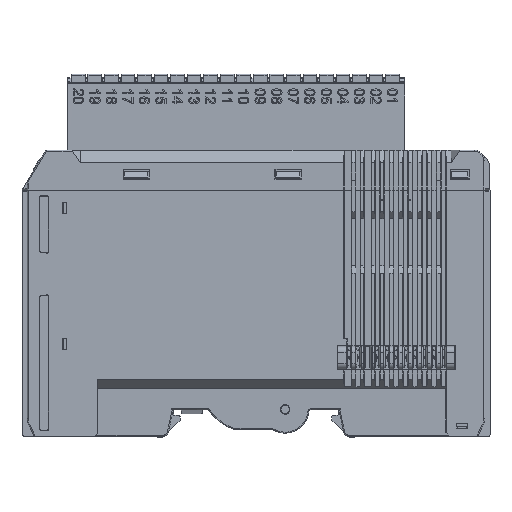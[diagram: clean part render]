
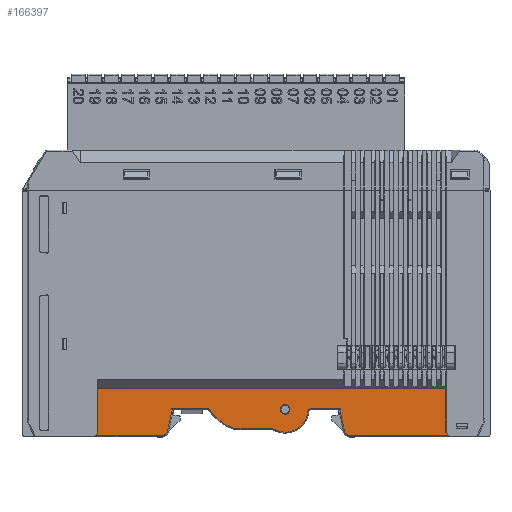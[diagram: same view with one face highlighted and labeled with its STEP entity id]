
A CAD part, left-side view. The second image highlights one B-rep face of the part: STEP entity #166397.
In plain terms, the highlighted planar face has unit normal (-1, 0, 0).
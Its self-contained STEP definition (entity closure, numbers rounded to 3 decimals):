
#38267=DIRECTION('',(0.,-1.,0.));
#38268=VECTOR('',#38267,21.195);
#38269=CARTESIAN_POINT('',(-5.45,-19.555,0.2));
#38270=LINE('',#38269,#38268);
#38276=DIRECTION('',(0.,-0.707,0.707));
#38277=VECTOR('',#38276,0.58);
#38278=CARTESIAN_POINT('',(-5.45,33.9,0.2));
#38279=LINE('',#38278,#38277);
#38280=DIRECTION('',(0.,-1.,0.));
#38281=VECTOR('',#38280,73.619);
#38282=CARTESIAN_POINT('',(-5.45,33.49,10.108));
#38283=LINE('',#38282,#38281);
#38284=DIRECTION('',(0.,0.,-1.));
#38285=VECTOR('',#38284,9.287);
#38286=CARTESIAN_POINT('',(-5.45,-40.129,10.108));
#38287=LINE('',#38286,#38285);
#38288=DIRECTION('',(0.,-0.707,-0.707));
#38289=VECTOR('',#38288,0.878);
#38290=CARTESIAN_POINT('',(-5.45,-40.129,0.821));
#38291=LINE('',#38290,#38289);
#38292=CARTESIAN_POINT('',(-5.45,-19.555,1.));
#38293=DIRECTION('',(1.,0.,0.));
#38294=DIRECTION('',(0.,0.,-1.));
#38295=AXIS2_PLACEMENT_3D('',#38292,#38293,#38294);
#38297=DIRECTION('',(0.,0.214,0.977));
#38298=VECTOR('',#38297,4.087);
#38299=CARTESIAN_POINT('',(-5.45,-18.773,0.829));
#38300=LINE('',#38299,#38298);
#38301=CARTESIAN_POINT('',(-5.45,-11.652,5.1));
#38302=DIRECTION('',(-1.,0.,0.));
#38303=DIRECTION('',(0.,0.,1.));
#38304=AXIS2_PLACEMENT_3D('',#38301,#38302,#38303);
#38306=CARTESIAN_POINT('',(-5.45,-6.18,5.65));
#38307=DIRECTION('',(1.,0.,0.));
#38308=DIRECTION('',(0.,-0.995,-0.1));
#38309=AXIS2_PLACEMENT_3D('',#38306,#38307,#38308);
#38311=CARTESIAN_POINT('',(-5.45,-3.316,1.25));
#38312=DIRECTION('',(-1.,0.,0.));
#38313=DIRECTION('',(0.,-0.546,0.838));
#38314=AXIS2_PLACEMENT_3D('',#38311,#38312,#38313);
#38316=CARTESIAN_POINT('',(-5.45,4.682,1.75));
#38317=DIRECTION('',(1.,0.,0.));
#38318=DIRECTION('',(0.,0.,-1.));
#38319=AXIS2_PLACEMENT_3D('',#38316,#38317,#38318);
#38321=CARTESIAN_POINT('',(-5.45,1.95,10.587));
#38322=DIRECTION('',(1.,0.,0.));
#38323=DIRECTION('',(0.,0.295,-0.955));
#38324=AXIS2_PLACEMENT_3D('',#38321,#38322,#38323);
#38326=CARTESIAN_POINT('',(-5.45,10.174,5.35));
#38327=DIRECTION('',(-1.,0.,0.));
#38328=DIRECTION('',(0.,-0.843,0.537));
#38329=AXIS2_PLACEMENT_3D('',#38326,#38327,#38328);
#38331=DIRECTION('',(0.,0.214,-0.977));
#38332=VECTOR('',#38331,4.087);
#38333=CARTESIAN_POINT('',(-5.45,17.9,4.822));
#38334=LINE('',#38333,#38332);
#38335=CARTESIAN_POINT('',(-5.45,19.555,1.));
#38336=DIRECTION('',(1.,0.,0.));
#38337=DIRECTION('',(0.,-0.977,-0.214));
#38338=AXIS2_PLACEMENT_3D('',#38335,#38336,#38337);
#38340=CARTESIAN_POINT('',(-5.45,-6.18,5.65));
#38341=DIRECTION('',(-1.,0.,0.));
#38342=DIRECTION('',(0.,0.,-1.));
#38343=AXIS2_PLACEMENT_3D('',#38340,#38341,#38342);
#38345=CARTESIAN_POINT('',(-5.45,-6.18,5.65));
#38346=DIRECTION('',(-1.,0.,0.));
#38347=DIRECTION('',(0.,0.,1.));
#38348=AXIS2_PLACEMENT_3D('',#38345,#38346,#38347);
#38350=DIRECTION('',(0.,-1.,0.));
#38351=VECTOR('',#38350,14.345);
#38352=CARTESIAN_POINT('',(-5.45,33.9,0.2));
#38353=LINE('',#38352,#38351);
#38404=DIRECTION('',(0.,0.,1.));
#38405=VECTOR('',#38404,0.978);
#38406=CARTESIAN_POINT('',(-5.45,17.9,4.822));
#38407=LINE('',#38406,#38405);
#38416=DIRECTION('',(0.,-1.,0.));
#38417=VECTOR('',#38416,7.726);
#38418=CARTESIAN_POINT('',(-5.45,17.9,5.8));
#38419=LINE('',#38418,#38417);
#41964=DIRECTION('',(0.,0.,-1.));
#41965=VECTOR('',#41964,9.498);
#41966=CARTESIAN_POINT('',(-5.45,33.49,10.108));
#41967=LINE('',#41966,#41965);
#42803=DIRECTION('',(0.,0.,-1.));
#42804=VECTOR('',#42803,0.978);
#42805=CARTESIAN_POINT('',(-5.45,-17.9,5.8));
#42806=LINE('',#42805,#42804);
#42847=DIRECTION('',(0.,-1.,0.));
#42848=VECTOR('',#42847,6.248);
#42849=CARTESIAN_POINT('',(-5.45,-11.652,5.8));
#42850=LINE('',#42849,#42848);
#42890=DIRECTION('',(0.,-1.,0.));
#42891=VECTOR('',#42890,7.998);
#42892=CARTESIAN_POINT('',(-5.45,4.682,1.7));
#42893=LINE('',#42892,#42891);
#88728=CARTESIAN_POINT('',(-5.45,-40.129,10.108));
#88729=VERTEX_POINT('',#88728);
#88730=CARTESIAN_POINT('',(-5.45,-40.129,0.821));
#88731=VERTEX_POINT('',#88730);
#89400=CARTESIAN_POINT('',(-5.45,19.555,0.2));
#89401=VERTEX_POINT('',#89400);
#89402=CARTESIAN_POINT('',(-5.45,-6.18,4.65));
#89403=CARTESIAN_POINT('',(-5.45,-6.18,6.65));
#89404=VERTEX_POINT('',#89402);
#89405=VERTEX_POINT('',#89403);
#89406=CARTESIAN_POINT('',(-5.45,33.9,0.2));
#89407=VERTEX_POINT('',#89406);
#89408=CARTESIAN_POINT('',(-5.45,33.49,0.61));
#89409=VERTEX_POINT('',#89408);
#89410=CARTESIAN_POINT('',(-5.45,33.49,10.108));
#89411=VERTEX_POINT('',#89410);
#89412=CARTESIAN_POINT('',(-5.45,-40.75,0.2));
#89413=VERTEX_POINT('',#89412);
#89414=CARTESIAN_POINT('',(-5.45,-19.555,0.2));
#89415=VERTEX_POINT('',#89414);
#89416=CARTESIAN_POINT('',(-5.45,-18.773,0.829));
#89417=VERTEX_POINT('',#89416);
#89418=CARTESIAN_POINT('',(-5.45,-17.9,4.822));
#89419=VERTEX_POINT('',#89418);
#89420=CARTESIAN_POINT('',(-5.45,-17.9,5.8));
#89421=VERTEX_POINT('',#89420);
#89422=CARTESIAN_POINT('',(-5.45,-11.652,5.8));
#89423=VERTEX_POINT('',#89422);
#89424=CARTESIAN_POINT('',(-5.45,-10.956,5.17));
#89425=VERTEX_POINT('',#89424);
#89426=CARTESIAN_POINT('',(-5.45,-3.561,1.627));
#89427=VERTEX_POINT('',#89426);
#89428=CARTESIAN_POINT('',(-5.45,-3.316,1.7));
#89429=VERTEX_POINT('',#89428);
#89430=CARTESIAN_POINT('',(-5.45,4.682,1.7));
#89431=VERTEX_POINT('',#89430);
#89432=CARTESIAN_POINT('',(-5.45,4.697,1.702));
#89433=VERTEX_POINT('',#89432);
#89434=CARTESIAN_POINT('',(-5.45,9.794,5.592));
#89435=VERTEX_POINT('',#89434);
#89436=CARTESIAN_POINT('',(-5.45,10.174,5.8));
#89437=VERTEX_POINT('',#89436);
#89438=CARTESIAN_POINT('',(-5.45,17.9,5.8));
#89439=VERTEX_POINT('',#89438);
#89440=CARTESIAN_POINT('',(-5.45,17.9,4.822));
#89441=VERTEX_POINT('',#89440);
#89442=CARTESIAN_POINT('',(-5.45,18.773,0.829));
#89443=VERTEX_POINT('',#89442);
#166345=CARTESIAN_POINT('',(-5.45,-3.425,5.154));
#166346=DIRECTION('',(1.,0.,0.));
#166347=DIRECTION('',(0.,0.,1.));
#166348=AXIS2_PLACEMENT_3D('',#166345,#166346,#166347);
#166349=PLANE('',#166348);
#166351=ORIENTED_EDGE('',*,*,#166350,.F.);
#166353=ORIENTED_EDGE('',*,*,#166352,.T.);
#166355=ORIENTED_EDGE('',*,*,#166354,.F.);
#166356=ORIENTED_EDGE('',*,*,#166060,.T.);
#166357=ORIENTED_EDGE('',*,*,#166169,.T.);
#166358=ORIENTED_EDGE('',*,*,#166288,.T.);
#166359=ORIENTED_EDGE('',*,*,#166310,.F.);
#166360=ORIENTED_EDGE('',*,*,#166328,.T.);
#166362=ORIENTED_EDGE('',*,*,#166361,.T.);
#166364=ORIENTED_EDGE('',*,*,#166363,.F.);
#166366=ORIENTED_EDGE('',*,*,#166365,.F.);
#166368=ORIENTED_EDGE('',*,*,#166367,.T.);
#166370=ORIENTED_EDGE('',*,*,#166369,.T.);
#166372=ORIENTED_EDGE('',*,*,#166371,.T.);
#166374=ORIENTED_EDGE('',*,*,#166373,.F.);
#166376=ORIENTED_EDGE('',*,*,#166375,.T.);
#166378=ORIENTED_EDGE('',*,*,#166377,.T.);
#166380=ORIENTED_EDGE('',*,*,#166379,.T.);
#166382=ORIENTED_EDGE('',*,*,#166381,.F.);
#166384=ORIENTED_EDGE('',*,*,#166383,.F.);
#166386=ORIENTED_EDGE('',*,*,#166385,.T.);
#166388=ORIENTED_EDGE('',*,*,#166387,.T.);
#166389=EDGE_LOOP('',(#166351,#166353,#166355,#166356,#166357,#166358,#166359,
#166360,#166362,#166364,#166366,#166368,#166370,#166372,#166374,#166376,#166378,
#166380,#166382,#166384,#166386,#166388));
#166390=FACE_OUTER_BOUND('',#166389,.F.);
#166392=ORIENTED_EDGE('',*,*,#166391,.T.);
#166394=ORIENTED_EDGE('',*,*,#166393,.T.);
#166395=EDGE_LOOP('',(#166392,#166394));
#166396=FACE_BOUND('',#166395,.F.);
#38296=CIRCLE('',#38295,0.8);
#38305=CIRCLE('',#38304,0.7);
#38310=CIRCLE('',#38309,4.8);
#38315=CIRCLE('',#38314,0.45);
#38320=CIRCLE('',#38319,0.05);
#38325=CIRCLE('',#38324,9.3);
#38330=CIRCLE('',#38329,0.45);
#38339=CIRCLE('',#38338,0.8);
#38344=CIRCLE('',#38343,1.);
#38349=CIRCLE('',#38348,1.);
#166060=EDGE_CURVE('',#89411,#88729,#38283,.T.);
#166169=EDGE_CURVE('',#88729,#88731,#38287,.T.);
#166288=EDGE_CURVE('',#88731,#89413,#38291,.T.);
#166310=EDGE_CURVE('',#89415,#89413,#38270,.T.);
#166328=EDGE_CURVE('',#89415,#89417,#38296,.T.);
#166350=EDGE_CURVE('',#89407,#89401,#38353,.T.);
#166352=EDGE_CURVE('',#89407,#89409,#38279,.T.);
#166354=EDGE_CURVE('',#89411,#89409,#41967,.T.);
#166361=EDGE_CURVE('',#89417,#89419,#38300,.T.);
#166363=EDGE_CURVE('',#89421,#89419,#42806,.T.);
#166365=EDGE_CURVE('',#89423,#89421,#42850,.T.);
#166367=EDGE_CURVE('',#89423,#89425,#38305,.T.);
#166369=EDGE_CURVE('',#89425,#89427,#38310,.T.);
#166371=EDGE_CURVE('',#89427,#89429,#38315,.T.);
#166373=EDGE_CURVE('',#89431,#89429,#42893,.T.);
#166375=EDGE_CURVE('',#89431,#89433,#38320,.T.);
#166377=EDGE_CURVE('',#89433,#89435,#38325,.T.);
#166379=EDGE_CURVE('',#89435,#89437,#38330,.T.);
#166381=EDGE_CURVE('',#89439,#89437,#38419,.T.);
#166383=EDGE_CURVE('',#89441,#89439,#38407,.T.);
#166385=EDGE_CURVE('',#89441,#89443,#38334,.T.);
#166387=EDGE_CURVE('',#89443,#89401,#38339,.T.);
#166391=EDGE_CURVE('',#89404,#89405,#38344,.T.);
#166393=EDGE_CURVE('',#89405,#89404,#38349,.T.);
#166397=ADVANCED_FACE('',(#166390,#166396),#166349,.F.);
